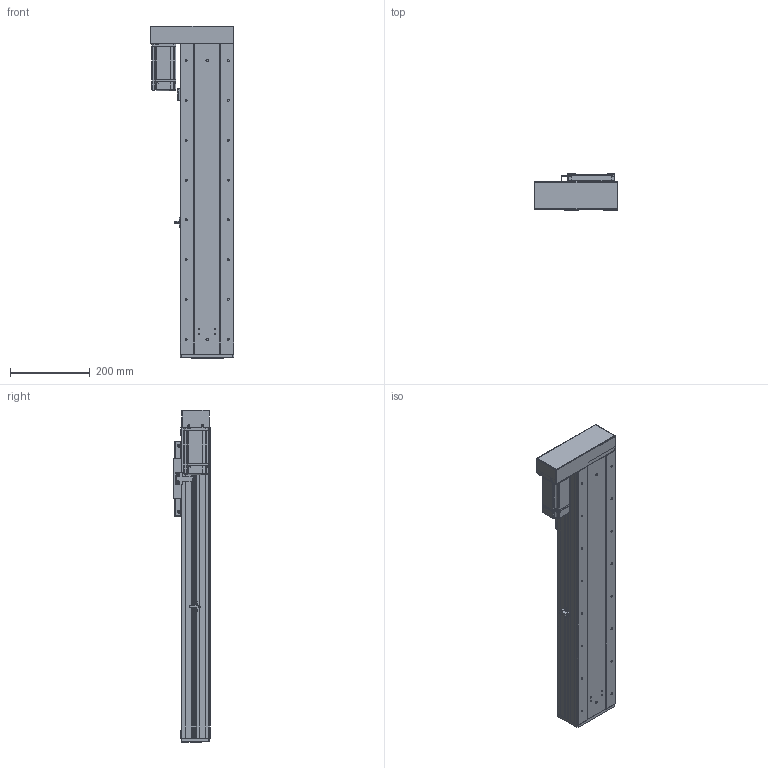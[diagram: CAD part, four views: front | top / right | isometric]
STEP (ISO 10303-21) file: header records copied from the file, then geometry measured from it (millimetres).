
FILE_DESCRIPTION (( 'STEP AP203' ), '1' );
FILE_NAME ('RY140F-L2020-300-LK.SLDASM_500.step', '2021-03-02T08:37:08', ( '盈信电脑' ), ( '东莞市道滘镇水果街19号' ), 'SwSTEP 2.0', 'SolidWorks 2012', '' );
FILE_SCHEMA (( 'CONFIG_CONTROL_DESIGN' ));
Products named in the file (19): RY140F-L2020-300-LK.SLDASM_500; RY140F-左右折电机安装板(400W M5); RY140F-酘衵殏萇儂欶(400W); RY140F-转折折电机座（7001）; 侐源滅袉蝶; RY140F-詩湍揤え; RY140F-672覜茼んえ; 覜茼ん672; RY140F-后盖板(铝件）; RY140F-直连型材铝滑块(16丝杆); 侂狟400W侜督萇儂; 15; RY140F-直连型材铝滑块连接座; RY140F-滅鳥奻裔; RY140F-詩湍幗謫粣; RY100F-詩湍揤踡謫; RY140F-300-LK倰第奻裔啣_500; RY140F-300-LK蛌殏詩湍_500; RY140F-300-LK倰第菁釱_500
Assembly tree (23 placements, depth 3):
  RY140F-L2020-300-LK.SLDASM_500
    RY140F-300-LK倰第菁釱_500
    RY140F-300-LK倰第奻裔啣_500  x2
    RY140F-300-LK蛌殏詩湍_500
    RY140F-直连型材铝滑块连接座
    RY140F-滅鳥奻裔
    RY140F-詩湍幗謫粣
    RY100F-詩湍揤踡謫
    RY140F-直连型材铝滑块(16丝杆)
    RY140F-后盖板(铝件）
    侂狟400W侜督萇儂
      15
    覜茼ん672
    RY140F-672覜茼んえ
    RY140F-詩湍揤え  x2
    侐源滅袉蝶  x4
    RY140F-转折折电机座（7001）
    RY140F-左右折电机安装板(400W M5)
    RY140F-酘衵殏萇儂欶(400W)
Bounding box: 211 x 91 x 834 mm (x, y, z)
Volume: 3500747.9 mm3; surface area: 1242741.8 mm2
Topology: 22 solids, 22 shells, 2013 faces, 5493 edges, 3490 vertices
Faces by surface type: cylinder 976, plane 789, cone 218, bspline 26, torus 4
Entity records: 63619 total; most frequent: CARTESIAN_POINT 13483, DIRECTION 10174, ORIENTED_EDGE 9890, EDGE_CURVE 4945, AXIS2_PLACEMENT_3D 3645, VERTEX_POINT 3230, LINE 2884, VECTOR 2884
